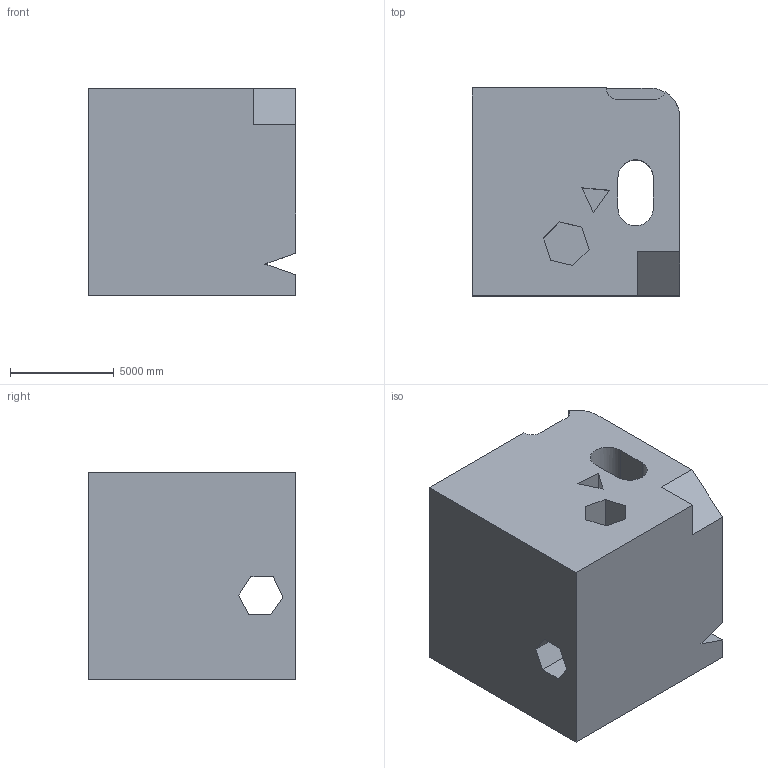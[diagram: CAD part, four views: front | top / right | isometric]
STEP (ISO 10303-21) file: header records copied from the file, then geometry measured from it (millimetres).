
FILE_DESCRIPTION (( 'STEP AP203' ), '1' );
FILE_NAME ('1856.STEP', '2022-08-25T16:12:18', ( 'user' ), ( '' ), 'SwSTEP 2.0', 'SolidWorks 2021', '' );
FILE_SCHEMA (( 'CONFIG_CONTROL_DESIGN' ));
Length unit declared in the file: centimetre
Products named in the file (1): 1856
Bounding box: 10000 x 10000 x 10000 mm (x, y, z)
Volume: 872024422161.2 mm3; surface area: 814162170.7 mm2
Topology: 1 solids, 1 shells, 47 faces, 138 edges, 92 vertices
Faces by surface type: plane 40, cylinder 7
Entity records: 1636 total; most frequent: CARTESIAN_POINT 320, ORIENTED_EDGE 276, DIRECTION 231, EDGE_CURVE 138, VECTOR 113, LINE 113, VERTEX_POINT 92, AXIS2_PLACEMENT_3D 59
